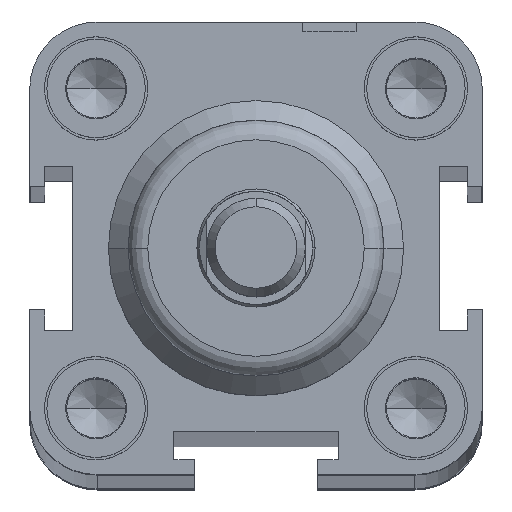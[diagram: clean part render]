
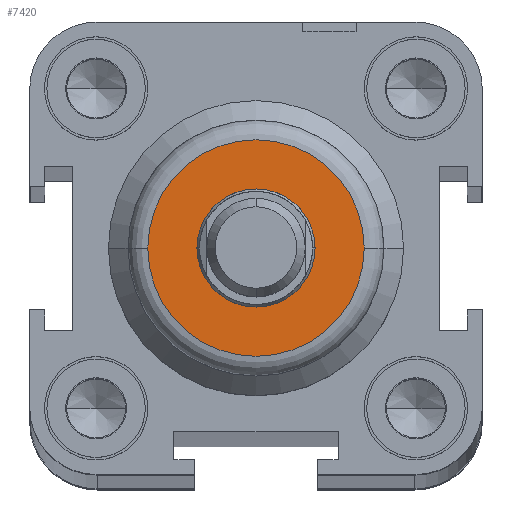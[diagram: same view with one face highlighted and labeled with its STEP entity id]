
A CAD part, top view. The second image highlights one B-rep face of the part: STEP entity #7420.
In plain terms, the highlighted planar face has unit normal (0, 0, 1).
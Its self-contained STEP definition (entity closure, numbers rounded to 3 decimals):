
#1472=CARTESIAN_POINT('',(-11.,0.0,463.));
#1473=VERTEX_POINT('',#1472);
#1481=CARTESIAN_POINT('',(11.,0.,463.));
#1482=VERTEX_POINT('',#1481);
#1483=CARTESIAN_POINT('',(0.0,0.0,463.));
#1484=DIRECTION('',(0.0,0.0,-1.0));
#1485=DIRECTION('',(-1.0,0.0,0.0));
#1486=AXIS2_PLACEMENT_3D('',#1483,#1484,#1485);
#1487=CIRCLE('',#1486,11.);
#1488=EDGE_CURVE('',#1473,#1482,#1487,.T.);
#1593=CARTESIAN_POINT('',(6.,0.0,463.));
#1594=VERTEX_POINT('',#1593);
#1610=CARTESIAN_POINT('',(-6.,0.,463.));
#1611=VERTEX_POINT('',#1610);
#1618=CARTESIAN_POINT('',(0.0,0.0,463.));
#1619=DIRECTION('',(0.0,0.0,-1.0));
#1620=DIRECTION('',(1.0,0.0,0.0));
#1621=AXIS2_PLACEMENT_3D('',#1618,#1619,#1620);
#1622=CIRCLE('',#1621,6.);
#1623=EDGE_CURVE('',#1594,#1611,#1622,.T.);
#7347=CARTESIAN_POINT('',(0.0,0.0,463.));
#7348=DIRECTION('',(0.0,0.0,-1.0));
#7349=DIRECTION('',(1.0,0.0,0.0));
#7350=AXIS2_PLACEMENT_3D('',#7347,#7348,#7349);
#7351=CIRCLE('',#7350,6.);
#7352=EDGE_CURVE('',#1611,#1594,#7351,.T.);
#7401=CARTESIAN_POINT('',(-5.5,0.0,463.));
#7402=DIRECTION('',(0.0,0.0,1.0));
#7403=DIRECTION('',(1.0,0.0,0.0));
#7404=AXIS2_PLACEMENT_3D('',#7401,#7402,#7403);
#7405=PLANE('',#7404);
#7406=ORIENTED_EDGE('',*,*,#1488,.F.);
#7407=CARTESIAN_POINT('',(0.0,0.0,463.));
#7408=DIRECTION('',(0.0,0.0,-1.0));
#7409=DIRECTION('',(-1.0,0.0,0.0));
#7410=AXIS2_PLACEMENT_3D('',#7407,#7408,#7409);
#7411=CIRCLE('',#7410,11.);
#7412=EDGE_CURVE('',#1482,#1473,#7411,.T.);
#7413=ORIENTED_EDGE('',*,*,#7412,.F.);
#7414=EDGE_LOOP('',(#7406,#7413));
#7415=FACE_OUTER_BOUND('',#7414,.T.);
#7416=ORIENTED_EDGE('',*,*,#1623,.T.);
#7417=ORIENTED_EDGE('',*,*,#7352,.T.);
#7418=EDGE_LOOP('',(#7416,#7417));
#7419=FACE_BOUND('',#7418,.T.);
#7420=ADVANCED_FACE('',(#7415,#7419),#7405,.T.);
